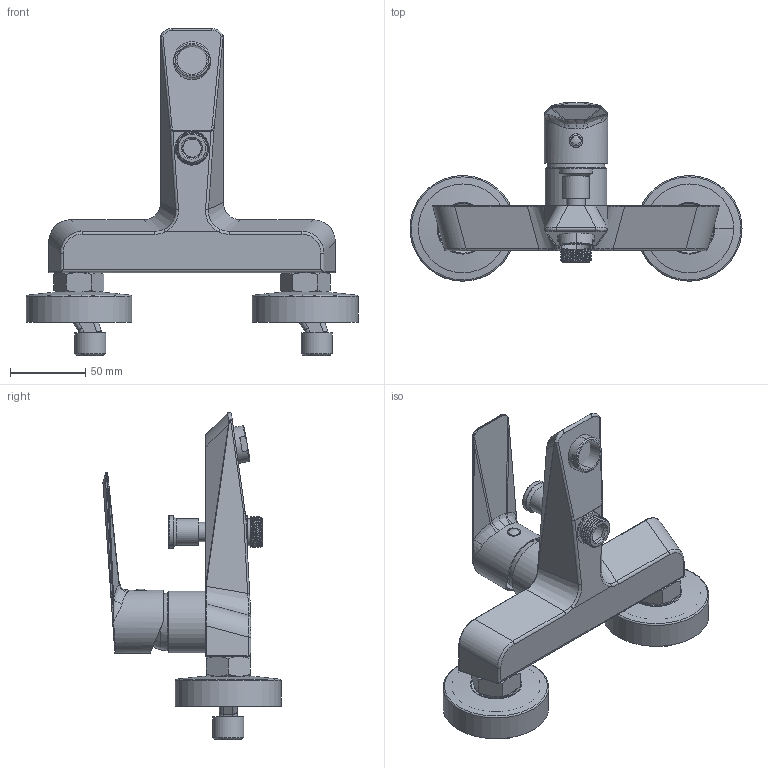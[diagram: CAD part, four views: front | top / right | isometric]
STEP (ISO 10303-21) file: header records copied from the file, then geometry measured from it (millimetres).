
FILE_DESCRIPTION(/* description */ (''),/* implementation_level */ '2;1');
FILE_NAME(/* name */ 'c:\worker\convert-fusion-r09\tmp\job-1\8\output\files\19dc2af5-2756-4668-a008-146511ee09bd\abcf5e42-391d-4df3-a191-6f648616963d.stp',/* time_stamp */ '2019-12-15T12:22:38+00:00',/* author */ (''),/* organization */ (''),/* preprocessor_version */ 'ST-DEVELOPER v18',/* originating_system */ 'Autodesk Translation Framework v8.12.0.6',/* authorisation */ '');
FILE_SCHEMA (('AUTOMOTIVE_DESIGN { 1 0 10303 214 3 1 1 }'));
Products named in the file (1): !AS5630
Bounding box: 220 x 117.97 x 216.81 mm (x, y, z)
Volume: 375465 mm3; surface area: 128184.6 mm2
Topology: 17 solids, 17 shells, 619 faces, 1716 edges, 1172 vertices
Faces by surface type: plane 181, cylinder 180, bspline 135, cone 84, torus 25, sphere 14
Full cylindrical faces by diameter (mm): 4 x1, 4.2 x1, 6.8 x1, 7.2 x1, 10.5 x1, 12 x4, 12.8 x1, 13.5 x1, 14.5 x2, 15 x2, 15.5 x1, 16 x2, 17.5 x1, 18 x4, 18.5 x2, 19 x1, 20 x4, 20.5 x4, 20.6 x2, 21 x2, 21.5 x3, 22 x1, 22.5 x3, 24 x2, 24.5 x1, 24.56 x10, 26.3 x2, 30.5 x1, 31 x1, 35.5 x2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
Entity records: 41556 total; most frequent: CARTESIAN_POINT 26441, ORIENTED_EDGE 3418, DIRECTION 2873, EDGE_CURVE 1709, AXIS2_PLACEMENT_3D 1183, VERTEX_POINT 1172, EDGE_LOOP 691, CIRCLE 647
